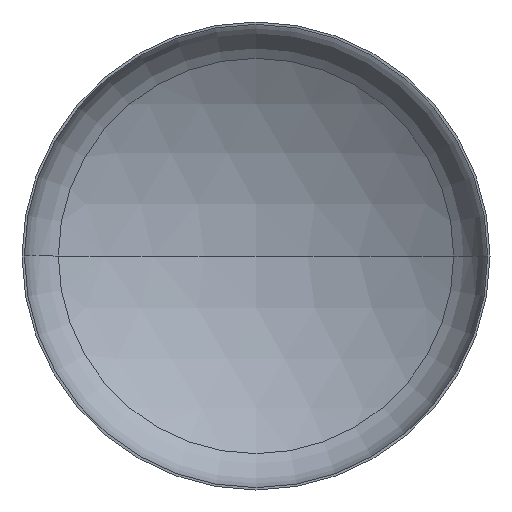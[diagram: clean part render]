
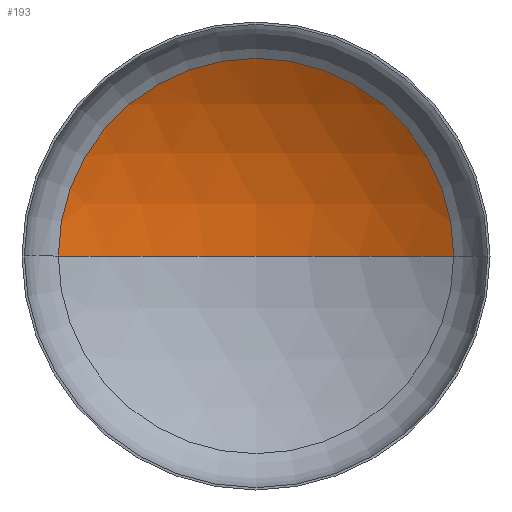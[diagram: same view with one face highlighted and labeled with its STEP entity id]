
A CAD part, front view. The second image highlights one B-rep face of the part: STEP entity #193.
In plain terms, the highlighted spherical face has radius 2080 mm.
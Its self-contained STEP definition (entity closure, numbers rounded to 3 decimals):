
#7 = CARTESIAN_POINT ( 'NONE',  ( 0., 379.704, 0. ) ) ;
#24 = AXIS2_PLACEMENT_3D ( 'NONE', #103, #172, #91 ) ;
#34 = CARTESIAN_POINT ( 'NONE',  ( -1098.19, 379.704, 0. ) ) ;
#37 = AXIS2_PLACEMENT_3D ( 'NONE', #110, #217, #109 ) ;
#39 = VERTEX_POINT ( 'NONE', #313 ) ;
#40 = AXIS2_PLACEMENT_3D ( 'NONE', #133, #224, #185 ) ;
#43 = AXIS2_PLACEMENT_3D ( 'NONE', #7, #46, #80 ) ;
#46 = DIRECTION ( 'NONE',  ( 0., -1., 0. ) ) ;
#78 = EDGE_CURVE ( 'NONE', #84, #150, #262, .T. ) ;
#80 = DIRECTION ( 'NONE',  ( 1., 0., 0. ) ) ;
#82 = ORIENTED_EDGE ( 'NONE', *, *, #122, .T. ) ;
#84 = VERTEX_POINT ( 'NONE', #85 ) ;
#85 = CARTESIAN_POINT ( 'NONE',  ( 1098.19, 379.704, 0. ) ) ;
#91 = DIRECTION ( 'NONE',  ( -1., 0., 0. ) ) ;
#103 = CARTESIAN_POINT ( 'NONE',  ( 0., -1386.755, 0. ) ) ;
#109 = DIRECTION ( 'NONE',  ( 1., 0., 0. ) ) ;
#110 = CARTESIAN_POINT ( 'NONE',  ( 0., -1386.755, 0. ) ) ;
#117 = ORIENTED_EDGE ( 'NONE', *, *, #78, .T. ) ;
#122 = EDGE_CURVE ( 'NONE', #39, #84, #366, .T. ) ;
#133 = CARTESIAN_POINT ( 'NONE',  ( 0., -1386.755, 0. ) ) ;
#143 = EDGE_LOOP ( 'NONE', ( #145, #82, #117 ) ) ;
#145 = ORIENTED_EDGE ( 'NONE', *, *, #155, .F. ) ;
#150 = VERTEX_POINT ( 'NONE', #34 ) ;
#155 = EDGE_CURVE ( 'NONE', #39, #150, #251, .T. ) ;
#172 = DIRECTION ( 'NONE',  ( 0., 0., -1. ) ) ;
#185 = DIRECTION ( 'NONE',  ( -1., 0., 0. ) ) ;
#193 = ADVANCED_FACE ( 'NONE', ( #302 ), #310, .F. ) ;
#217 = DIRECTION ( 'NONE',  ( 0., 0., 1. ) ) ;
#224 = DIRECTION ( 'NONE',  ( 0., 0., -1. ) ) ;
#251 = CIRCLE ( 'NONE', #37, 2080. ) ;
#262 = CIRCLE ( 'NONE', #43, 1098.19 ) ;
#302 = FACE_OUTER_BOUND ( 'NONE', #143, .T. ) ;
#310 = SPHERICAL_SURFACE ( 'NONE', #24, 2080. ) ;
#313 = CARTESIAN_POINT ( 'NONE',  ( 0., 693.245, 0. ) ) ;
#366 = CIRCLE ( 'NONE', #40, 2080. ) ;
